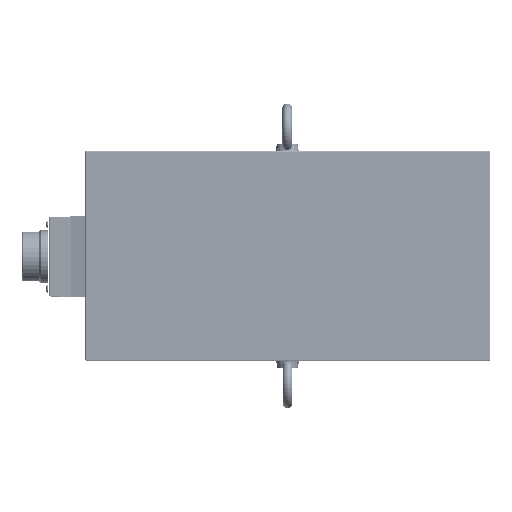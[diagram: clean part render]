
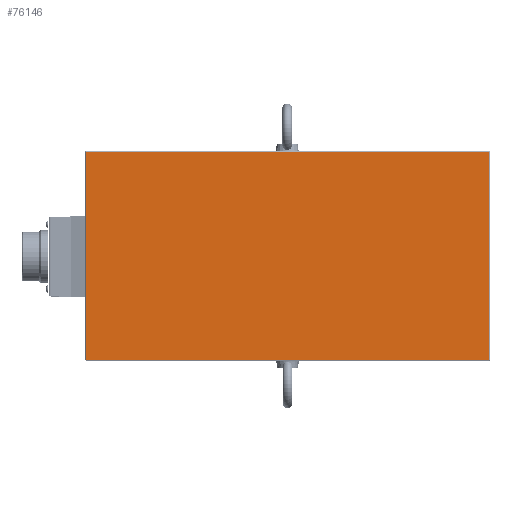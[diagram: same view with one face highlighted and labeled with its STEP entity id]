
A CAD part, top view. The second image highlights one B-rep face of the part: STEP entity #76146.
In plain terms, the highlighted planar face has unit normal (0, 0, 1).
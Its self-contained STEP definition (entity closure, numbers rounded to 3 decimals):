
#76107=CARTESIAN_POINT('',(-72.5,65.,568.));
#76108=DIRECTION('',(0.,1.,0.));
#76109=DIRECTION('',(0.,0.,-1.));
#76110=AXIS2_PLACEMENT_3D('',#76107,#76109,#76108);
#76111=PLANE('',#76110);
#76112=CARTESIAN_POINT('',(-206.5,-69.,568.));
#76113=VERTEX_POINT('',#76112);
#76114=CARTESIAN_POINT('',(-206.5,69.,568.));
#76115=VERTEX_POINT('',#76114);
#76116=CARTESIAN_POINT('',(-206.5,-69.,568.));
#76117=DIRECTION('',(0.,1.,0.));
#76118=VECTOR('',#76117,138.);
#76119=LINE('',#76116,#76118);
#76120=EDGE_CURVE('',#76113,#76115,#76119,.T.);
#76121=ORIENTED_EDGE('E69',*,*,#76120,.T.);
#76122=CARTESIAN_POINT('',(61.5,69.,568.));
#76123=VERTEX_POINT('',#76122);
#76124=CARTESIAN_POINT('',(-206.5,69.,568.));
#76125=DIRECTION('',(1.,0.,0.));
#76126=VECTOR('',#76125,268.);
#76127=LINE('',#76124,#76126);
#76128=EDGE_CURVE('',#76115,#76123,#76127,.T.);
#76129=ORIENTED_EDGE('E74',*,*,#76128,.T.);
#76130=CARTESIAN_POINT('',(61.5,-69.,568.));
#76131=VERTEX_POINT('',#76130);
#76132=CARTESIAN_POINT('',(61.5,69.,568.));
#76133=DIRECTION('',(0.,-1.,0.));
#76134=VECTOR('',#76133,138.);
#76135=LINE('',#76132,#76134);
#76136=EDGE_CURVE('',#76123,#76131,#76135,.T.);
#76137=ORIENTED_EDGE('E76',*,*,#76136,.T.);
#76138=CARTESIAN_POINT('',(61.5,-69.,568.));
#76139=DIRECTION('',(-1.,0.,0.));
#76140=VECTOR('',#76139,268.);
#76141=LINE('',#76138,#76140);
#76142=EDGE_CURVE('',#76131,#76113,#76141,.T.);
#76143=ORIENTED_EDGE('E72',*,*,#76142,.T.);
#76144=EDGE_LOOP('',(#76121,#76129,#76137,#76143));
#76145=FACE_OUTER_BOUND('',#76144,.F.);
#76146=ADVANCED_FACE('F8',(#76145),#76111,.F.);
